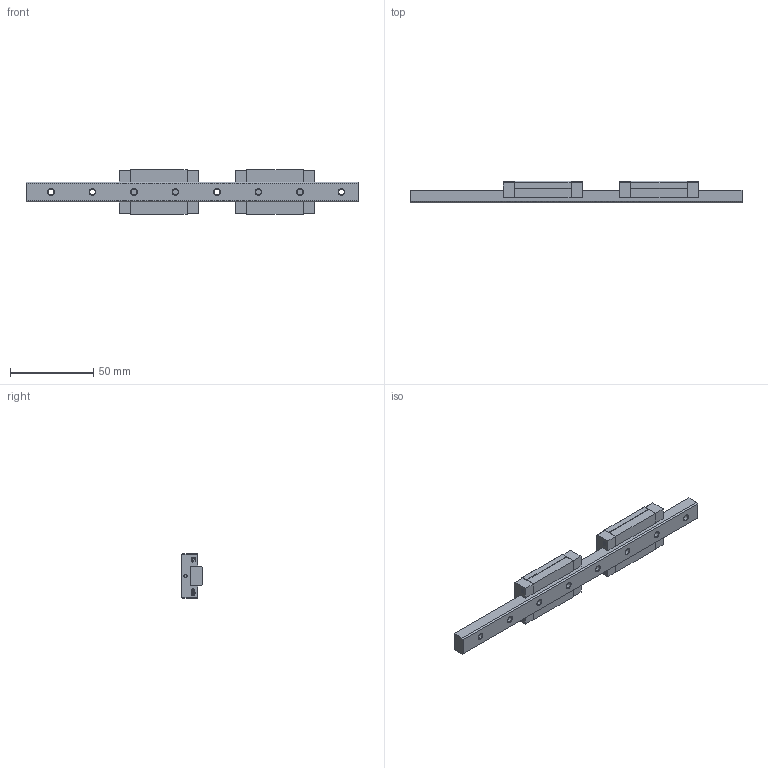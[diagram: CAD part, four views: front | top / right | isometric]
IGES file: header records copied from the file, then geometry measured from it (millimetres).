
Start section: SolidWorks IGES file using analytic representation for surfaces
Global section: file name: H:\直得科技CAD圖檔\3D目錄檔\MR-M Series\12ML.IGS; native system: SolidWorks 2005 by SolidWorks Corporation; preprocessor: SolidWorks 2005 by SolidWorks Corporation; author: cpc; date: 050331.121750; units: millimetre
Bounding box: 200 x 13 x 27 mm (x, y, z)
Surface area: 13965.5 mm2 (no closed solid volume)
Topology: 0 solids, 0 shells, 480 faces, 6492 edges, 6476 vertices
Faces by surface type: bspline 344, revolution 136
